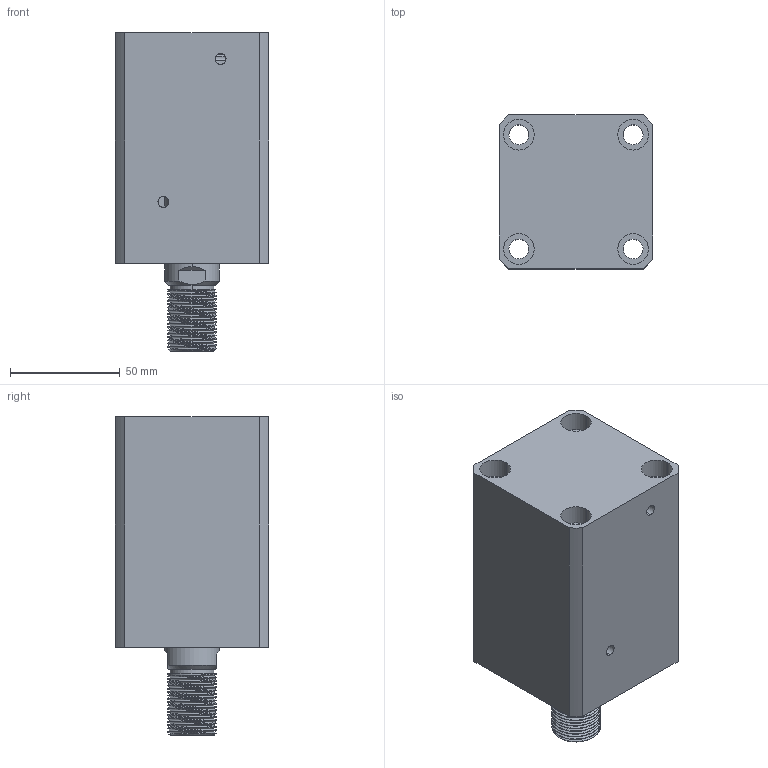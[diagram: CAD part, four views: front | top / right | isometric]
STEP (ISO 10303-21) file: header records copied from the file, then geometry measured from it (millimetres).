
FILE_DESCRIPTION (( 'STEP AP214' ), '1' );
FILE_NAME ('chtb-sdma40x50n_asm.STEP', '2018-06-06T07:59:56', ( 'Windows' ), ( 'Microsoft' ), 'SwSTEP 2.0', 'SolidWorks 2015', '' );
FILE_SCHEMA (( 'AUTOMOTIVE_DESIGN' ));
Length unit declared in the file: millimetre
Products named in the file (4): CHTB-SDMA40X50NBT; CHTB-SD40X50WHSG; CHTB-SD40QG; chtb-sdma40x50n_asm
Assembly tree (3 placements, depth 2):
  chtb-sdma40x50n_asm
    CHTB-SD40QG
    CHTB-SD40X50WHSG
    CHTB-SDMA40X50NBT
Bounding box: 70 x 70 x 145 mm (x, y, z)
Volume: 448328.2 mm3; surface area: 91989.5 mm2
Topology: 3 solids, 4 shells, 203 faces, 545 edges, 363 vertices
Faces by surface type: cylinder 122, plane 40, bspline 16, torus 14, cone 11
Entity records: 13587 total; most frequent: CARTESIAN_POINT 8658, ORIENTED_EDGE 1078, DIRECTION 914, EDGE_CURVE 539, AXIS2_PLACEMENT_3D 378, VERTEX_POINT 363, EDGE_LOOP 240, FACE_OUTER_BOUND 203
